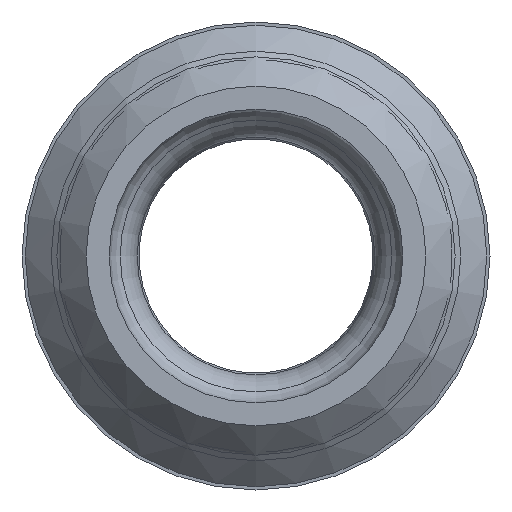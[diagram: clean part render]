
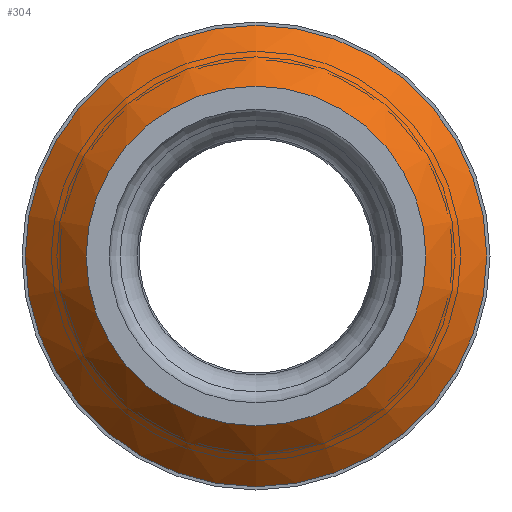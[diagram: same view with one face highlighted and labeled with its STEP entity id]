
A CAD part, front view. The second image highlights one B-rep face of the part: STEP entity #304.
In plain terms, the highlighted conical face has half-angle 45 degrees and reference radius 12.509 mm.
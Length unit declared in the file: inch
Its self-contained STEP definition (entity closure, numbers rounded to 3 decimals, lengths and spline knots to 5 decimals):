
#241=CARTESIAN_POINT('',(0.0,-7.88,-0.3625));
#242=VERTEX_POINT('',#241);
#243=CARTESIAN_POINT('',(0.,-7.88,0.3625));
#244=VERTEX_POINT('',#243);
#245=CARTESIAN_POINT('',(0.0,-7.88,0.0));
#246=DIRECTION('',(0.0,1.0,0.0));
#247=DIRECTION('',(0.0,0.0,-1.0));
#248=AXIS2_PLACEMENT_3D('',#245,#246,#247);
#249=CIRCLE('',#248,0.3625);
#250=EDGE_CURVE('',#242,#244,#249,.T.);
#252=CARTESIAN_POINT('',(0.0,-7.88,0.0));
#253=DIRECTION('',(0.0,1.0,0.0));
#254=DIRECTION('',(0.0,0.0,-1.0));
#255=AXIS2_PLACEMENT_3D('',#252,#253,#254);
#256=CIRCLE('',#255,0.3625);
#257=EDGE_CURVE('',#244,#242,#256,.T.);
#267=CARTESIAN_POINT('',(0.0,-7.75,-0.4925));
#268=VERTEX_POINT('',#267);
#269=CARTESIAN_POINT('',(0.,-7.75,0.4925));
#270=VERTEX_POINT('',#269);
#271=CARTESIAN_POINT('',(0.0,-7.75,0.0));
#272=DIRECTION('',(0.0,-1.0,0.0));
#273=DIRECTION('',(0.0,0.0,-1.0));
#274=AXIS2_PLACEMENT_3D('',#271,#272,#273);
#275=CIRCLE('',#274,0.4925);
#276=EDGE_CURVE('',#268,#270,#275,.T.);
#278=CARTESIAN_POINT('',(0.0,-7.75,0.0));
#279=DIRECTION('',(0.0,-1.0,0.0));
#280=DIRECTION('',(0.0,0.0,-1.0));
#281=AXIS2_PLACEMENT_3D('',#278,#279,#280);
#282=CIRCLE('',#281,0.4925);
#283=EDGE_CURVE('',#270,#268,#282,.T.);
#291=CARTESIAN_POINT('',(0.0,-7.75,0.0));
#292=DIRECTION('',(0.,1.0,0.));
#293=DIRECTION('',(0.0,0.0,-1.0));
#294=AXIS2_PLACEMENT_3D('',#291,#292,#293);
#295=CONICAL_SURFACE('',#294,0.4925,45.);
#296=ORIENTED_EDGE('',*,*,#276,.T.);
#297=ORIENTED_EDGE('',*,*,#283,.T.);
#298=EDGE_LOOP('',(#296,#297));
#299=FACE_OUTER_BOUND('',#298,.T.);
#300=ORIENTED_EDGE('',*,*,#250,.T.);
#301=ORIENTED_EDGE('',*,*,#257,.T.);
#302=EDGE_LOOP('',(#300,#301));
#303=FACE_BOUND('',#302,.T.);
#304=ADVANCED_FACE('',(#299,#303),#295,.T.);
